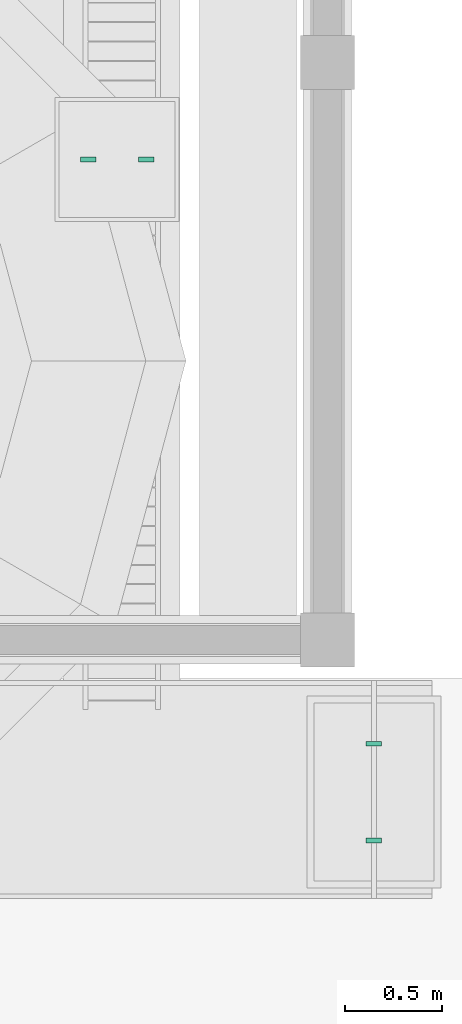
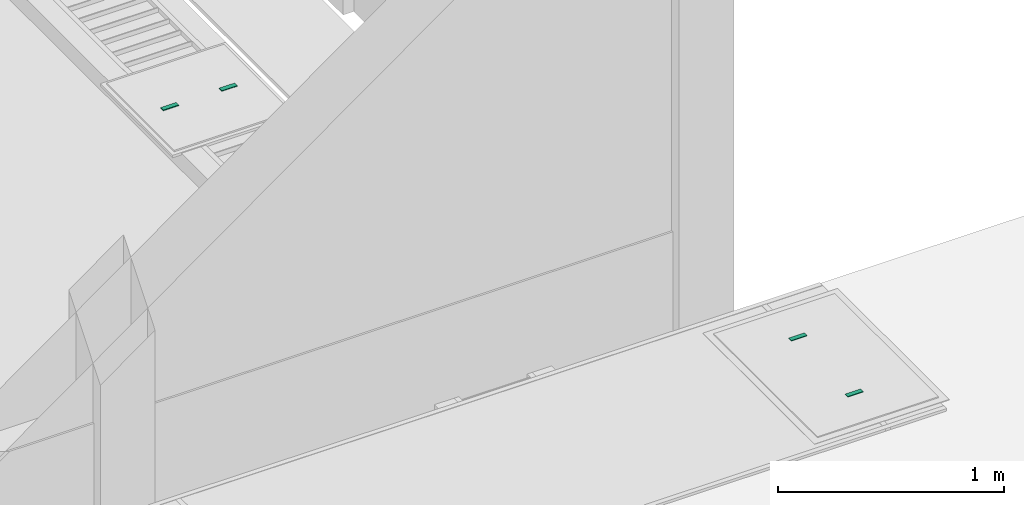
# One storey, part 131 of 166: 4 distribution chamber elements.
"""IFC2X3 building model written with IfcOpenShell, lengths in metres."""

from ifc_helpers import new_model, si_unit, origin, origin_with_axes, place, context, subcontext, project, spatial, faceted_brep, element, save


model = new_model("IFC2X3")

# Units and contexts
model_context = context("Model", 3, precision=1e-05, world=origin_with_axes())
body_context = subcontext(model_context, "Body", "Model", "MODEL_VIEW")
ifc_project = project(units=[si_unit("LENGTHUNIT", "METRE"), si_unit("AREAUNIT", "SQUARE_METRE"), si_unit("VOLUMEUNIT", "CUBIC_METRE"), si_unit("PLANEANGLEUNIT", "RADIAN")], contexts=[model_context])

# Site, building, storey
site_placement = place(None, origin_with_axes())
site = spatial("IfcSite", under=ifc_project, at=site_placement, Name="Predio Los Mangos - Morales, San Martín", CompositionType="ELEMENT")
building_placement = place(site_placement, origin())
building = spatial("IfcBuilding", under=site, at=building_placement, Name="Hogar de Refugio Temporal", CompositionType="ELEMENT")
storey_placement = place(building_placement, origin())
storey = spatial("IfcBuildingStorey", under=building, at=storey_placement, Name="NIVEL 1 (NPT +0.00)", CompositionType="ELEMENT", Elevation=0.0)

# Distribution chamber elements
distribution_chamber_element_1_placement = place(storey_placement, origin())
element("IfcDistributionChamberElement", 1, at=distribution_chamber_element_1_placement, inside=storey, Name="tapa_insp_asa", ObjectType="Tapa de inspección", context=body_context, shape_type="Brep", body=[
    faceted_brep([(70.485, 20.467, 0.104), (70.485, 20.491, 0.104), (70.565, 20.491, 0.104), (70.565, 20.467, 0.104), (70.485, 20.467, 0.108), (70.565, 20.467, 0.108), (70.565, 20.491, 0.108), (70.485, 20.491, 0.108)], [[[0, 1, 2, 3]], [[4, 5, 6, 7]], [[0, 3, 5, 4]], [[3, 2, 6, 5]], [[2, 1, 7, 6]], [[1, 0, 4, 7]]]),
])
distribution_chamber_element_2_placement = place(storey_placement, origin())
element("IfcDistributionChamberElement", 2, at=distribution_chamber_element_2_placement, inside=storey, Name="tapa_insp_asa", ObjectType="Tapa de inspección", context=body_context, shape_type="Brep", body=[
    faceted_brep([(70.785, 20.467, 0.104), (70.785, 20.491, 0.104), (70.865, 20.491, 0.104), (70.865, 20.467, 0.104), (70.785, 20.467, 0.108), (70.865, 20.467, 0.108), (70.865, 20.491, 0.108), (70.785, 20.491, 0.108)], [[[0, 1, 2, 3]], [[4, 5, 6, 7]], [[0, 3, 5, 4]], [[3, 2, 6, 5]], [[2, 1, 7, 6]], [[1, 0, 4, 7]]]),
])
distribution_chamber_element_3_placement = place(storey_placement, origin())
element("IfcDistributionChamberElement", 3, at=distribution_chamber_element_3_placement, inside=storey, Name="tapa_asa", ObjectType="Tapa ciega de registro del colector", context=body_context, shape_type="Brep", body=[
    faceted_brep([(71.96, 16.953, 0.168), (71.96, 16.977, 0.168), (72.04, 16.977, 0.168), (72.04, 16.953, 0.168), (71.96, 16.953, 0.172), (72.04, 16.953, 0.172), (72.04, 16.977, 0.172), (71.96, 16.977, 0.172)], [[[0, 1, 2, 3]], [[4, 5, 6, 7]], [[0, 3, 5, 4]], [[3, 2, 6, 5]], [[2, 1, 7, 6]], [[1, 0, 4, 7]]]),
])
distribution_chamber_element_4_placement = place(storey_placement, origin())
element("IfcDistributionChamberElement", 4, at=distribution_chamber_element_4_placement, inside=storey, Name="tapa_asa", ObjectType="Tapa ciega de registro del colector", context=body_context, shape_type="Brep", body=[
    faceted_brep([(71.96, 17.453, 0.168), (71.96, 17.477, 0.168), (72.04, 17.477, 0.168), (72.04, 17.453, 0.168), (71.96, 17.453, 0.172), (72.04, 17.453, 0.172), (72.04, 17.477, 0.172), (71.96, 17.477, 0.172)], [[[0, 1, 2, 3]], [[4, 5, 6, 7]], [[0, 3, 5, 4]], [[3, 2, 6, 5]], [[2, 1, 7, 6]], [[1, 0, 4, 7]]]),
])

save(model, "model.ifc")
